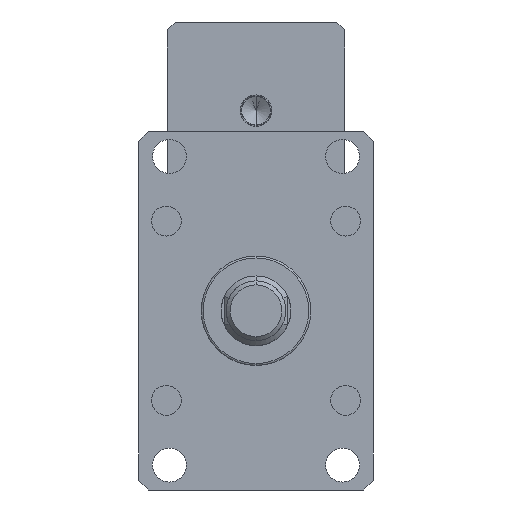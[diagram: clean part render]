
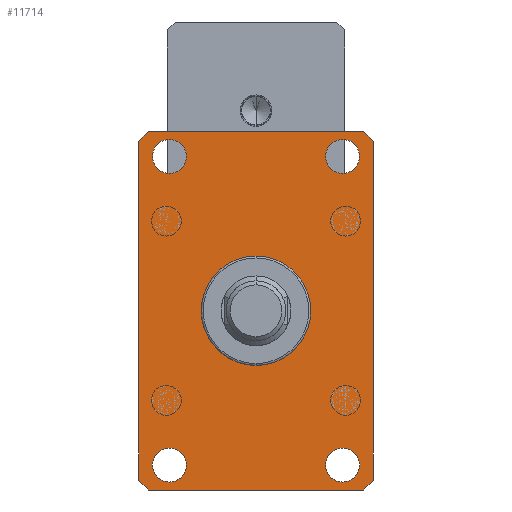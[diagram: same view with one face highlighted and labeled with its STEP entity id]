
A CAD part, front view. The second image highlights one B-rep face of the part: STEP entity #11714.
In plain terms, the highlighted planar face has unit normal (0, -1, 0).
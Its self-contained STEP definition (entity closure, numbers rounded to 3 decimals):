
#4 = DIRECTION ( 'NONE',  ( 0., 0., 1. ) ) ;
#23 = DIRECTION ( 'NONE',  ( 0., 1., 0. ) ) ;
#97 = DIRECTION ( 'NONE',  ( 0.707, 0., 0.707 ) ) ;
#104 = VERTEX_POINT ( 'NONE', #5251 ) ;
#108 = VECTOR ( 'NONE', #10233, 1000. ) ;
#202 = VERTEX_POINT ( 'NONE', #1512 ) ;
#354 = AXIS2_PLACEMENT_3D ( 'NONE', #3026, #6886, #4004 ) ;
#359 = CIRCLE ( 'NONE', #9405, 8.5 ) ;
#390 = AXIS2_PLACEMENT_3D ( 'NONE', #5549, #12380, #6552 ) ;
#401 = LINE ( 'NONE', #537, #2339 ) ;
#537 = CARTESIAN_POINT ( 'NONE',  ( -54., -55., 90. ) ) ;
#608 = ORIENTED_EDGE ( 'NONE', *, *, #1893, .T. ) ;
#717 = DIRECTION ( 'NONE',  ( 0., -1., 0. ) ) ;
#769 = CARTESIAN_POINT ( 'NONE',  ( 43.5, -55., 77.5 ) ) ;
#1120 = CARTESIAN_POINT ( 'NONE',  ( -43.5, -55., -69. ) ) ;
#1221 = EDGE_CURVE ( 'NONE', #4178, #2364, #3883, .T. ) ;
#1396 = ORIENTED_EDGE ( 'NONE', *, *, #7986, .T. ) ;
#1398 = AXIS2_PLACEMENT_3D ( 'NONE', #3750, #10576, #4737 ) ;
#1417 = VERTEX_POINT ( 'NONE', #10881 ) ;
#1483 = CARTESIAN_POINT ( 'NONE',  ( -59., -55., 85. ) ) ;
#1512 = CARTESIAN_POINT ( 'NONE',  ( 54., -55., -90. ) ) ;
#1743 = VERTEX_POINT ( 'NONE', #5221 ) ;
#1747 = DIRECTION ( 'NONE',  ( 0., 0., -1. ) ) ;
#1760 = CARTESIAN_POINT ( 'NONE',  ( 59., -55., 85. ) ) ;
#1818 = FACE_BOUND ( 'NONE', #5988, .T. ) ;
#1880 = EDGE_CURVE ( 'NONE', #2364, #5237, #7812, .T. ) ;
#1893 = EDGE_CURVE ( 'NONE', #8275, #202, #10117, .T. ) ;
#1921 = VERTEX_POINT ( 'NONE', #10402 ) ;
#2072 = PLANE ( 'NONE',  #354 ) ;
#2145 = CARTESIAN_POINT ( 'NONE',  ( 54., -55., 90. ) ) ;
#2339 = VECTOR ( 'NONE', #8270, 1000. ) ;
#2350 = VECTOR ( 'NONE', #8331, 1000. ) ;
#2364 = VERTEX_POINT ( 'NONE', #1760 ) ;
#2455 = LINE ( 'NONE', #7676, #9621 ) ;
#2584 = ORIENTED_EDGE ( 'NONE', *, *, #9558, .T. ) ;
#2605 = DIRECTION ( 'NONE',  ( 0., 1., 0. ) ) ;
#2685 = ORIENTED_EDGE ( 'NONE', *, *, #5760, .T. ) ;
#3026 = CARTESIAN_POINT ( 'NONE',  ( 59., -55., 90. ) ) ;
#3084 = CIRCLE ( 'NONE', #1398, 8.5 ) ;
#3342 = LINE ( 'NONE', #3586, #8208 ) ;
#3490 = CARTESIAN_POINT ( 'NONE',  ( -54., -55., -90. ) ) ;
#3580 = ORIENTED_EDGE ( 'NONE', *, *, #7939, .T. ) ;
#3586 = CARTESIAN_POINT ( 'NONE',  ( -59., -55., -85. ) ) ;
#3635 = ORIENTED_EDGE ( 'NONE', *, *, #8211, .F. ) ;
#3668 = ORIENTED_EDGE ( 'NONE', *, *, #1221, .T. ) ;
#3693 = VERTEX_POINT ( 'NONE', #6040 ) ;
#3749 = CARTESIAN_POINT ( 'NONE',  ( -54., -55., 90. ) ) ;
#3750 = CARTESIAN_POINT ( 'NONE',  ( -43.5, -55., -77.5 ) ) ;
#3784 = ORIENTED_EDGE ( 'NONE', *, *, #8828, .T. ) ;
#3850 = CARTESIAN_POINT ( 'NONE',  ( -43.5, -55., 69. ) ) ;
#3858 = EDGE_CURVE ( 'NONE', #1743, #3693, #8998, .T. ) ;
#3883 = LINE ( 'NONE', #6799, #8448 ) ;
#3898 = LINE ( 'NONE', #5863, #8787 ) ;
#4004 = DIRECTION ( 'NONE',  ( 0., 0., 1. ) ) ;
#4100 = LINE ( 'NONE', #11667, #4386 ) ;
#4178 = VERTEX_POINT ( 'NONE', #9842 ) ;
#4210 = VERTEX_POINT ( 'NONE', #1120 ) ;
#4230 = DIRECTION ( 'NONE',  ( 0., -1., 0. ) ) ;
#4251 = EDGE_LOOP ( 'NONE', ( #10112, #6570 ) ) ;
#4367 = FACE_BOUND ( 'NONE', #11021, .T. ) ;
#4386 = VECTOR ( 'NONE', #5797, 1000. ) ;
#4428 = CARTESIAN_POINT ( 'NONE',  ( 54., -55., 90. ) ) ;
#4737 = DIRECTION ( 'NONE',  ( 0., 0., 1. ) ) ;
#5017 = EDGE_CURVE ( 'NONE', #10607, #4210, #5079, .T. ) ;
#5079 = CIRCLE ( 'NONE', #9159, 8.5 ) ;
#5208 = ORIENTED_EDGE ( 'NONE', *, *, #3858, .F. ) ;
#5221 = CARTESIAN_POINT ( 'NONE',  ( 43.5, -55., 69. ) ) ;
#5237 = VERTEX_POINT ( 'NONE', #2145 ) ;
#5251 = CARTESIAN_POINT ( 'NONE',  ( 43.5, -55., -86. ) ) ;
#5533 = CARTESIAN_POINT ( 'NONE',  ( -43.5, -55., -86. ) ) ;
#5549 = CARTESIAN_POINT ( 'NONE',  ( -43.5, -55., 77.5 ) ) ;
#5643 = DIRECTION ( 'NONE',  ( 0., 0., 1. ) ) ;
#5753 = VERTEX_POINT ( 'NONE', #1483 ) ;
#5760 = EDGE_CURVE ( 'NONE', #5237, #7133, #401, .T. ) ;
#5771 = DIRECTION ( 'NONE',  ( 0., 1., 0. ) ) ;
#5785 = CARTESIAN_POINT ( 'NONE',  ( -43.5, -55., -77.5 ) ) ;
#5797 = DIRECTION ( 'NONE',  ( -0.707, 0., -0.707 ) ) ;
#5863 = CARTESIAN_POINT ( 'NONE',  ( 59., -55., -85. ) ) ;
#5988 = EDGE_LOOP ( 'NONE', ( #3635, #5208 ) ) ;
#6032 = EDGE_LOOP ( 'NONE', ( #2685, #2584, #11150, #3784, #608, #1396, #3668, #8779 ) ) ;
#6040 = CARTESIAN_POINT ( 'NONE',  ( 43.5, -55., 86. ) ) ;
#6493 = CARTESIAN_POINT ( 'NONE',  ( 43.5, -55., 77.5 ) ) ;
#6552 = DIRECTION ( 'NONE',  ( 0., 0., -1. ) ) ;
#6570 = ORIENTED_EDGE ( 'NONE', *, *, #5017, .T. ) ;
#6779 = DIRECTION ( 'NONE',  ( 0., 0., 1. ) ) ;
#6799 = CARTESIAN_POINT ( 'NONE',  ( 59., -55., 85. ) ) ;
#6886 = DIRECTION ( 'NONE',  ( 0., 1., 0. ) ) ;
#7133 = VERTEX_POINT ( 'NONE', #3749 ) ;
#7370 = EDGE_LOOP ( 'NONE', ( #3580, #11097 ) ) ;
#7376 = CIRCLE ( 'NONE', #10129, 8.5 ) ;
#7473 = DIRECTION ( 'NONE',  ( 0., 0., -1. ) ) ;
#7499 = VERTEX_POINT ( 'NONE', #3850 ) ;
#7527 = DIRECTION ( 'NONE',  ( 0., -1., 0. ) ) ;
#7676 = CARTESIAN_POINT ( 'NONE',  ( -59., -55., 85. ) ) ;
#7797 = EDGE_CURVE ( 'NONE', #1417, #7499, #8304, .T. ) ;
#7812 = LINE ( 'NONE', #4428, #108 ) ;
#7939 = EDGE_CURVE ( 'NONE', #1921, #104, #7376, .T. ) ;
#7986 = EDGE_CURVE ( 'NONE', #202, #4178, #3898, .T. ) ;
#8191 = EDGE_CURVE ( 'NONE', #104, #1921, #11832, .T. ) ;
#8203 = CARTESIAN_POINT ( 'NONE',  ( -59., -55., -85. ) ) ;
#8208 = VECTOR ( 'NONE', #11375, 1000. ) ;
#8211 = EDGE_CURVE ( 'NONE', #3693, #1743, #9233, .T. ) ;
#8270 = DIRECTION ( 'NONE',  ( -1., 0., 0. ) ) ;
#8275 = VERTEX_POINT ( 'NONE', #10614 ) ;
#8304 = CIRCLE ( 'NONE', #390, 8.5 ) ;
#8331 = DIRECTION ( 'NONE',  ( 1., 0., 0. ) ) ;
#8416 = CARTESIAN_POINT ( 'NONE',  ( 43.5, -55., -77.5 ) ) ;
#8448 = VECTOR ( 'NONE', #5643, 1000. ) ;
#8579 = AXIS2_PLACEMENT_3D ( 'NONE', #8416, #2605, #9413 ) ;
#8597 = EDGE_CURVE ( 'NONE', #7499, #1417, #359, .T. ) ;
#8672 = DIRECTION ( 'NONE',  ( 0., 0., -1. ) ) ;
#8779 = ORIENTED_EDGE ( 'NONE', *, *, #1880, .T. ) ;
#8787 = VECTOR ( 'NONE', #97, 1000. ) ;
#8828 = EDGE_CURVE ( 'NONE', #9293, #8275, #3342, .T. ) ;
#8829 = ORIENTED_EDGE ( 'NONE', *, *, #7797, .F. ) ;
#8998 = CIRCLE ( 'NONE', #12287, 8.5 ) ;
#9159 = AXIS2_PLACEMENT_3D ( 'NONE', #5785, #23, #6779 ) ;
#9233 = CIRCLE ( 'NONE', #9243, 8.5 ) ;
#9243 = AXIS2_PLACEMENT_3D ( 'NONE', #6493, #717, #7473 ) ;
#9256 = FACE_OUTER_BOUND ( 'NONE', #6032, .T. ) ;
#9293 = VERTEX_POINT ( 'NONE', #8203 ) ;
#9405 = AXIS2_PLACEMENT_3D ( 'NONE', #10070, #4230, #11049 ) ;
#9413 = DIRECTION ( 'NONE',  ( 0., 0., 1. ) ) ;
#9558 = EDGE_CURVE ( 'NONE', #7133, #5753, #4100, .T. ) ;
#9621 = VECTOR ( 'NONE', #8672, 1000. ) ;
#9842 = CARTESIAN_POINT ( 'NONE',  ( 59., -55., -85. ) ) ;
#9873 = FACE_BOUND ( 'NONE', #4251, .T. ) ;
#10070 = CARTESIAN_POINT ( 'NONE',  ( -43.5, -55., 77.5 ) ) ;
#10112 = ORIENTED_EDGE ( 'NONE', *, *, #10149, .T. ) ;
#10117 = LINE ( 'NONE', #3490, #2350 ) ;
#10129 = AXIS2_PLACEMENT_3D ( 'NONE', #11631, #5771, #4 ) ;
#10149 = EDGE_CURVE ( 'NONE', #4210, #10607, #3084, .T. ) ;
#10233 = DIRECTION ( 'NONE',  ( -0.707, 0., 0.707 ) ) ;
#10402 = CARTESIAN_POINT ( 'NONE',  ( 43.5, -55., -69. ) ) ;
#10576 = DIRECTION ( 'NONE',  ( 0., 1., 0. ) ) ;
#10607 = VERTEX_POINT ( 'NONE', #5533 ) ;
#10614 = CARTESIAN_POINT ( 'NONE',  ( -54., -55., -90. ) ) ;
#10720 = EDGE_CURVE ( 'NONE', #5753, #9293, #2455, .T. ) ;
#10881 = CARTESIAN_POINT ( 'NONE',  ( -43.5, -55., 86. ) ) ;
#11021 = EDGE_LOOP ( 'NONE', ( #8829, #11128 ) ) ;
#11049 = DIRECTION ( 'NONE',  ( 0., 0., -1. ) ) ;
#11097 = ORIENTED_EDGE ( 'NONE', *, *, #8191, .T. ) ;
#11128 = ORIENTED_EDGE ( 'NONE', *, *, #8597, .F. ) ;
#11150 = ORIENTED_EDGE ( 'NONE', *, *, #10720, .T. ) ;
#11375 = DIRECTION ( 'NONE',  ( 0.707, 0., -0.707 ) ) ;
#11631 = CARTESIAN_POINT ( 'NONE',  ( 43.5, -55., -77.5 ) ) ;
#11667 = CARTESIAN_POINT ( 'NONE',  ( -59., -55., 85. ) ) ;
#11714 = ADVANCED_FACE ( 'NONE', ( #4367, #11854, #9873, #9256, #1818 ), #2072, .F. ) ;
#11832 = CIRCLE ( 'NONE', #8579, 8.5 ) ;
#11854 = FACE_BOUND ( 'NONE', #7370, .T. ) ;
#12287 = AXIS2_PLACEMENT_3D ( 'NONE', #769, #7527, #1747 ) ;
#12380 = DIRECTION ( 'NONE',  ( 0., -1., 0. ) ) ;
